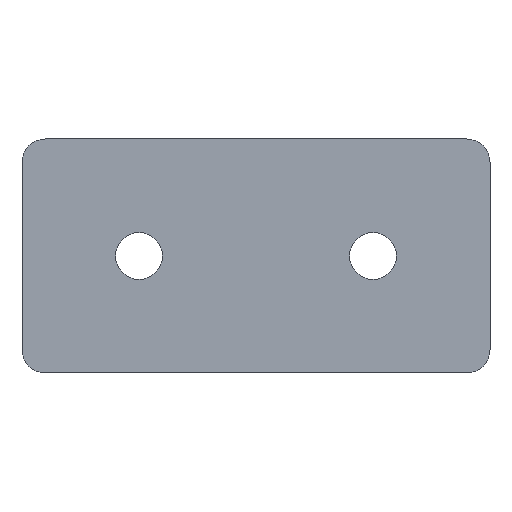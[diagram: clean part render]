
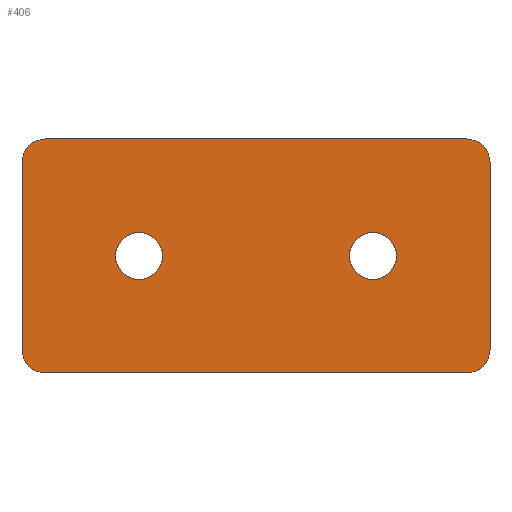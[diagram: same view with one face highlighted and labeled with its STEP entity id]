
A CAD part, front view. The second image highlights one B-rep face of the part: STEP entity #406.
In plain terms, the highlighted planar face has unit normal (0, -1, 0).
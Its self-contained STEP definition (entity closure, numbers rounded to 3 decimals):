
#6 = AXIS2_PLACEMENT_3D ( 'NONE', #325, #362, #139 ) ;
#20 = DIRECTION ( 'NONE',  ( 0., -1., 0. ) ) ;
#21 = VECTOR ( 'NONE', #63, 1000. ) ;
#23 = DIRECTION ( 'NONE',  ( 0., -1., 0. ) ) ;
#29 = AXIS2_PLACEMENT_3D ( 'NONE', #436, #248, #356 ) ;
#33 = CARTESIAN_POINT ( 'NONE',  ( -36., 0., -20. ) ) ;
#45 = CARTESIAN_POINT ( 'NONE',  ( 40., 0., -20. ) ) ;
#63 = DIRECTION ( 'NONE',  ( 0., 0., -1. ) ) ;
#66 = EDGE_CURVE ( 'NONE', #74, #338, #361, .T. ) ;
#69 = FACE_BOUND ( 'NONE', #405, .T. ) ;
#71 = CARTESIAN_POINT ( 'NONE',  ( -36., 0., 20. ) ) ;
#74 = VERTEX_POINT ( 'NONE', #71 ) ;
#75 = CIRCLE ( 'NONE', #324, 4. ) ;
#79 = LINE ( 'NONE', #146, #385 ) ;
#84 = LINE ( 'NONE', #45, #240 ) ;
#86 = DIRECTION ( 'NONE',  ( 0., 0., 1. ) ) ;
#87 = EDGE_CURVE ( 'NONE', #423, #427, #84, .T. ) ;
#89 = CARTESIAN_POINT ( 'NONE',  ( -20., 0., 4. ) ) ;
#90 = CARTESIAN_POINT ( 'NONE',  ( 20., 0., -4. ) ) ;
#98 = LINE ( 'NONE', #397, #237 ) ;
#103 = CARTESIAN_POINT ( 'NONE',  ( 36., 0., -20. ) ) ;
#109 = VERTEX_POINT ( 'NONE', #89 ) ;
#116 = DIRECTION ( 'NONE',  ( 0., -1., 0. ) ) ;
#120 = ORIENTED_EDGE ( 'NONE', *, *, #87, .F. ) ;
#130 = AXIS2_PLACEMENT_3D ( 'NONE', #330, #153, #450 ) ;
#135 = CARTESIAN_POINT ( 'NONE',  ( 40., 0., -16. ) ) ;
#139 = DIRECTION ( 'NONE',  ( 0., 0., 1. ) ) ;
#141 = CIRCLE ( 'NONE', #395, 4. ) ;
#146 = CARTESIAN_POINT ( 'NONE',  ( 40., 0., 20. ) ) ;
#150 = EDGE_CURVE ( 'NONE', #302, #427, #204, .T. ) ;
#153 = DIRECTION ( 'NONE',  ( 0., -1., 0. ) ) ;
#159 = VERTEX_POINT ( 'NONE', #135 ) ;
#165 = DIRECTION ( 'NONE',  ( 0., -1., 0. ) ) ;
#167 = CARTESIAN_POINT ( 'NONE',  ( -20., 0., 0. ) ) ;
#184 = EDGE_CURVE ( 'NONE', #109, #259, #75, .T. ) ;
#204 = CIRCLE ( 'NONE', #328, 4. ) ;
#208 = ORIENTED_EDGE ( 'NONE', *, *, #269, .F. ) ;
#213 = CARTESIAN_POINT ( 'NONE',  ( 36., 0., 20. ) ) ;
#216 = FACE_OUTER_BOUND ( 'NONE', #333, .T. ) ;
#229 = EDGE_CURVE ( 'NONE', #259, #109, #141, .T. ) ;
#237 = VECTOR ( 'NONE', #474, 1000. ) ;
#239 = CARTESIAN_POINT ( 'NONE',  ( -20., 0., -4. ) ) ;
#240 = VECTOR ( 'NONE', #342, 1000. ) ;
#241 = ORIENTED_EDGE ( 'NONE', *, *, #249, .T. ) ;
#244 = CARTESIAN_POINT ( 'NONE',  ( 20., 0., 4. ) ) ;
#245 = CIRCLE ( 'NONE', #366, 4. ) ;
#248 = DIRECTION ( 'NONE',  ( 0., -1., 0. ) ) ;
#249 = EDGE_CURVE ( 'NONE', #267, #310, #245, .T. ) ;
#253 = VERTEX_POINT ( 'NONE', #90 ) ;
#259 = VERTEX_POINT ( 'NONE', #239 ) ;
#265 = ORIENTED_EDGE ( 'NONE', *, *, #426, .F. ) ;
#267 = VERTEX_POINT ( 'NONE', #388 ) ;
#269 = EDGE_CURVE ( 'NONE', #267, #159, #429, .T. ) ;
#272 = CIRCLE ( 'NONE', #29, 4. ) ;
#277 = PLANE ( 'NONE',  #6 ) ;
#288 = ORIENTED_EDGE ( 'NONE', *, *, #475, .T. ) ;
#289 = VERTEX_POINT ( 'NONE', #244 ) ;
#293 = CIRCLE ( 'NONE', #359, 4. ) ;
#298 = DIRECTION ( 'NONE',  ( 0., 0., 1. ) ) ;
#301 = ORIENTED_EDGE ( 'NONE', *, *, #229, .F. ) ;
#302 = VERTEX_POINT ( 'NONE', #393 ) ;
#310 = VERTEX_POINT ( 'NONE', #213 ) ;
#313 = DIRECTION ( 'NONE',  ( 0., 0., 1. ) ) ;
#315 = ORIENTED_EDGE ( 'NONE', *, *, #66, .T. ) ;
#318 = EDGE_CURVE ( 'NONE', #253, #289, #272, .T. ) ;
#322 = FACE_BOUND ( 'NONE', #390, .T. ) ;
#324 = AXIS2_PLACEMENT_3D ( 'NONE', #167, #165, #313 ) ;
#325 = CARTESIAN_POINT ( 'NONE',  ( 0., 0., 0. ) ) ;
#328 = AXIS2_PLACEMENT_3D ( 'NONE', #347, #23, #422 ) ;
#330 = CARTESIAN_POINT ( 'NONE',  ( 20., 0., 0. ) ) ;
#333 = EDGE_LOOP ( 'NONE', ( #265, #369, #120, #288, #208, #241, #454, #315 ) ) ;
#338 = VERTEX_POINT ( 'NONE', #471 ) ;
#342 = DIRECTION ( 'NONE',  ( -1., 0., 0. ) ) ;
#347 = CARTESIAN_POINT ( 'NONE',  ( -36., 0., -16. ) ) ;
#352 = DIRECTION ( 'NONE',  ( 0., -1., 0. ) ) ;
#356 = DIRECTION ( 'NONE',  ( 0., 0., 1. ) ) ;
#359 = AXIS2_PLACEMENT_3D ( 'NONE', #403, #363, #298 ) ;
#361 = CIRCLE ( 'NONE', #449, 4. ) ;
#362 = DIRECTION ( 'NONE',  ( 0., 1., 0. ) ) ;
#363 = DIRECTION ( 'NONE',  ( 0., -1., 0. ) ) ;
#366 = AXIS2_PLACEMENT_3D ( 'NONE', #391, #352, #86 ) ;
#369 = ORIENTED_EDGE ( 'NONE', *, *, #150, .T. ) ;
#371 = DIRECTION ( 'NONE',  ( 1., 0., 0. ) ) ;
#385 = VECTOR ( 'NONE', #371, 1000. ) ;
#386 = ORIENTED_EDGE ( 'NONE', *, *, #318, .F. ) ;
#388 = CARTESIAN_POINT ( 'NONE',  ( 40., 0., 16. ) ) ;
#390 = EDGE_LOOP ( 'NONE', ( #467, #301 ) ) ;
#391 = CARTESIAN_POINT ( 'NONE',  ( 36., 0., 16. ) ) ;
#392 = CARTESIAN_POINT ( 'NONE',  ( 40., 0., 20. ) ) ;
#393 = CARTESIAN_POINT ( 'NONE',  ( -40., 0., -16. ) ) ;
#395 = AXIS2_PLACEMENT_3D ( 'NONE', #462, #20, #418 ) ;
#397 = CARTESIAN_POINT ( 'NONE',  ( -40., 0., 20. ) ) ;
#401 = DIRECTION ( 'NONE',  ( 0., 0., 1. ) ) ;
#403 = CARTESIAN_POINT ( 'NONE',  ( 36., 0., -16. ) ) ;
#405 = EDGE_LOOP ( 'NONE', ( #415, #386 ) ) ;
#406 = ADVANCED_FACE ( 'NONE', ( #69, #216, #322 ), #277, .F. ) ;
#415 = ORIENTED_EDGE ( 'NONE', *, *, #446, .F. ) ;
#418 = DIRECTION ( 'NONE',  ( 0., 0., 1. ) ) ;
#422 = DIRECTION ( 'NONE',  ( 0., 0., 1. ) ) ;
#423 = VERTEX_POINT ( 'NONE', #103 ) ;
#426 = EDGE_CURVE ( 'NONE', #302, #338, #98, .T. ) ;
#427 = VERTEX_POINT ( 'NONE', #33 ) ;
#429 = LINE ( 'NONE', #392, #21 ) ;
#436 = CARTESIAN_POINT ( 'NONE',  ( 20., 0., 0. ) ) ;
#441 = EDGE_CURVE ( 'NONE', #74, #310, #79, .T. ) ;
#446 = EDGE_CURVE ( 'NONE', #289, #253, #447, .T. ) ;
#447 = CIRCLE ( 'NONE', #130, 4. ) ;
#449 = AXIS2_PLACEMENT_3D ( 'NONE', #452, #116, #401 ) ;
#450 = DIRECTION ( 'NONE',  ( 0., 0., 1. ) ) ;
#452 = CARTESIAN_POINT ( 'NONE',  ( -36., 0., 16. ) ) ;
#454 = ORIENTED_EDGE ( 'NONE', *, *, #441, .F. ) ;
#462 = CARTESIAN_POINT ( 'NONE',  ( -20., 0., 0. ) ) ;
#467 = ORIENTED_EDGE ( 'NONE', *, *, #184, .F. ) ;
#471 = CARTESIAN_POINT ( 'NONE',  ( -40., 0., 16. ) ) ;
#474 = DIRECTION ( 'NONE',  ( 0., 0., 1. ) ) ;
#475 = EDGE_CURVE ( 'NONE', #423, #159, #293, .T. ) ;
